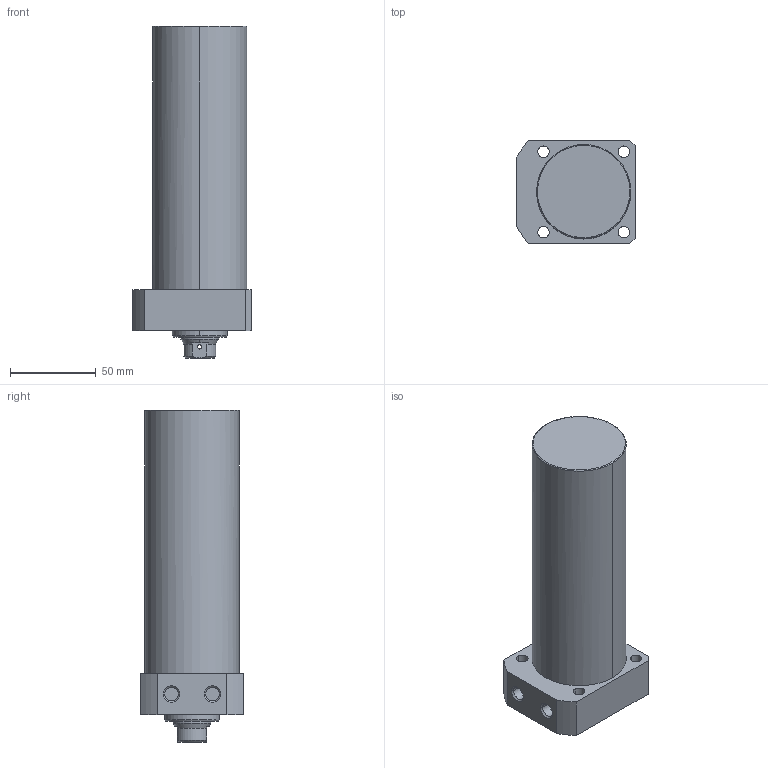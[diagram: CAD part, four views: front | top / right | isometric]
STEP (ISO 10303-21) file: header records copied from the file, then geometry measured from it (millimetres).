
FILE_DESCRIPTION((' '),'2;1');
FILE_NAME( 'TLLR-055CB-125.STEP.stp', '2025-10-24T16:34:46', (' '), ('--- Datakit www.datakit.com---'), ' Datakit CrossCadWare V2024.1 Dec 21 2023', 'Mastercam 2025', ' ');
FILE_SCHEMA(('AUTOMOTIVE_DESIGN { 1 0 10303 214 1 1 1 1 }'));
Length unit declared in the file: millimetre
Products named in the file (1): TLLR-055CB-125
Bounding box: 69 x 60 x 194 mm (x, y, z)
Volume: 463463 mm3; surface area: 44944.8 mm2
Topology: 1 solids, 1 shells, 67 faces, 197 edges, 136 vertices
Faces by surface type: cylinder 32, plane 19, cone 14, torus 2
Entity records: 3058 total; most frequent: CARTESIAN_POINT 1139, DIRECTION 426, ORIENTED_EDGE 390, EDGE_CURVE 195, AXIS2_PLACEMENT_3D 179, VERTEX_POINT 136, CIRCLE 111, EDGE_LOOP 85
